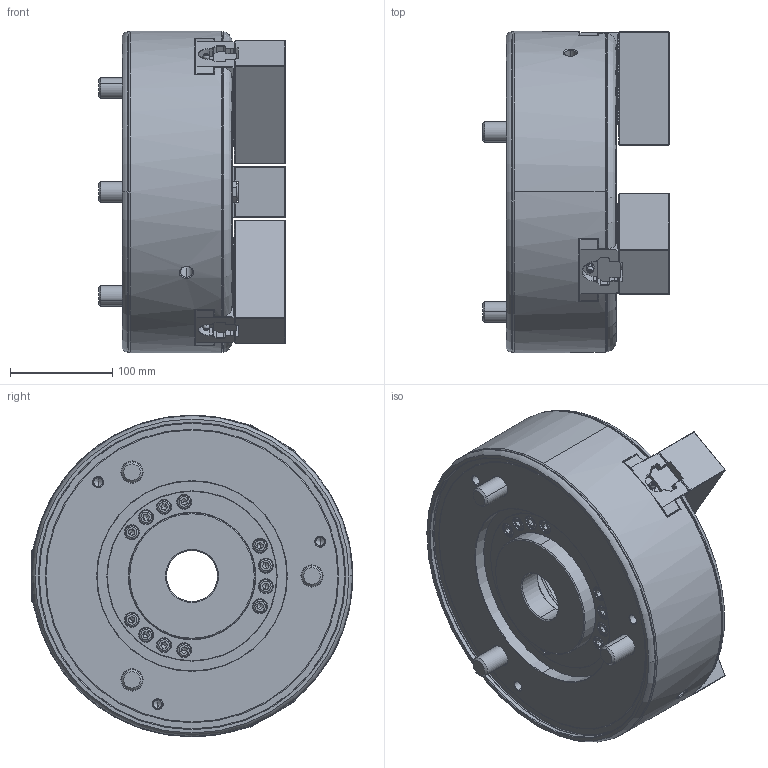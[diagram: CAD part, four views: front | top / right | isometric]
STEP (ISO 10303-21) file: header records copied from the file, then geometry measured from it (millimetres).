
FILE_DESCRIPTION (( 'STEP AP203' ), '1' );
FILE_NAME ('DEV-BR12-HCL.STEP', '2024-03-07T02:48:24', ( '' ), ( '' ), 'SwSTEP 2.0', 'SolidWorks 2022', '' );
FILE_SCHEMA (( 'CONFIG_CONTROL_DESIGN' ));
Length unit declared in the file: millimetre
Products named in the file (9): BR12-Nishi08 Tナット-Plus_61P447364-2 BB212 Tナット-ﾃﾞﾌｫﾙﾄ; Part117^DEV-BR12-クミタテ; BR12-Nishi07 ドローナット_外観-ﾃﾞﾌｫﾙﾄ; Bアナツキ M16×35; DEV-BR12-HCL; 61P318349-4 SB12N1 ソフトジョー_外観-ﾃﾞﾌｫﾙﾄ; Bアナツキボタン M6×10_デフォルト; 61P366784-2 BB212 カバー; Bアナツキ M20×110
Assembly tree (21 placements, depth 2):
  DEV-BR12-HCL
    BR12-Nishi07 ドローナット_外観-ﾃﾞﾌｫﾙﾄ
    61P318349-4 SB12N1 ソフトジョー_外観-ﾃﾞﾌｫﾙﾄ  x3
    BR12-Nishi08 Tナット-Plus_61P447364-2 BB212 Tナット-ﾃﾞﾌｫﾙﾄ  x3
    61P366784-2 BB212 カバー
    Bアナツキ M16×35  x6
    Bアナツキボタン M6×10_デフォルト  x3
    Bアナツキ M20×110  x3
    Part117^DEV-BR12-クミタテ
Bounding box: 183 x 315 x 315 mm (x, y, z)
Volume: 7688894.2 mm3; surface area: 638484.3 mm2
Topology: 22 solids, 31 shells, 4748 faces, 13069 edges, 8446 vertices
Faces by surface type: plane 3650, cylinder 461, cone 392, bspline 124, torus 107, sphere 14
Entity records: 117667 total; most frequent: CARTESIAN_POINT 29130, ORIENTED_EDGE 18830, DIRECTION 17006, EDGE_CURVE 9415, VECTOR 7536, LINE 7536, VERTEX_POINT 6115, AXIS2_PLACEMENT_3D 4735
